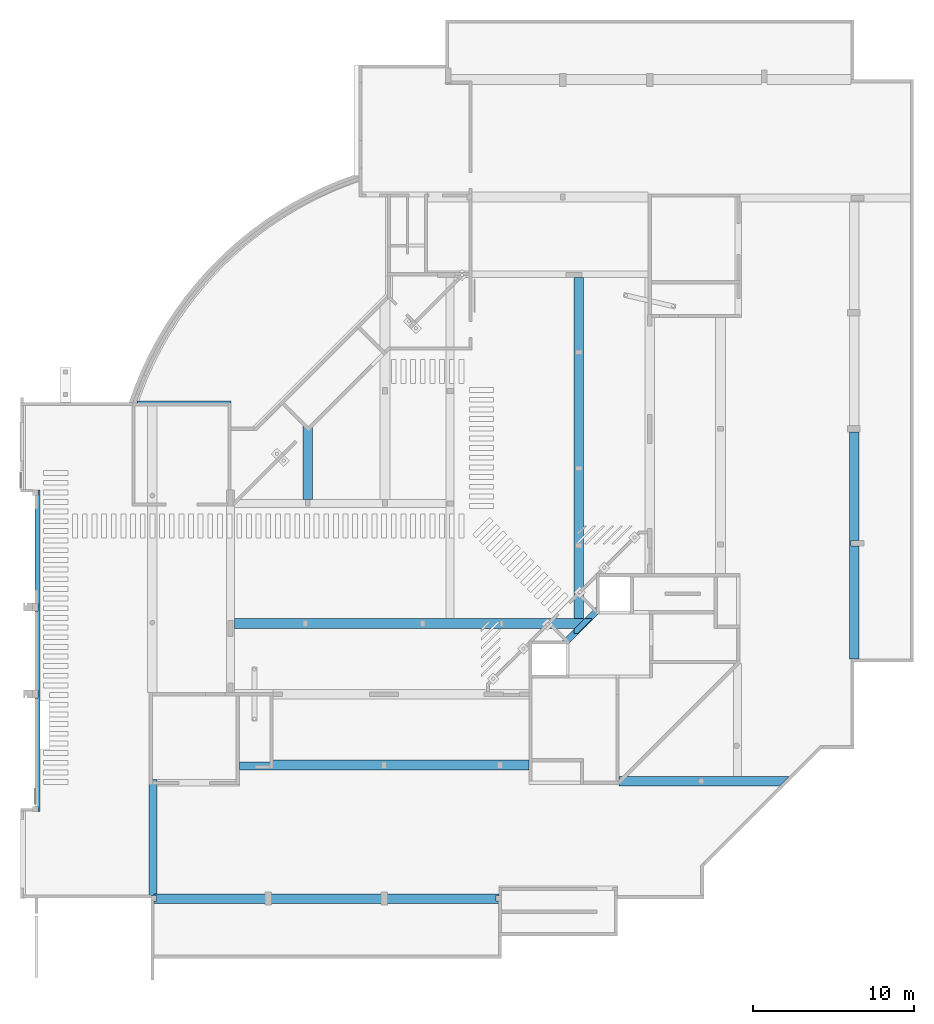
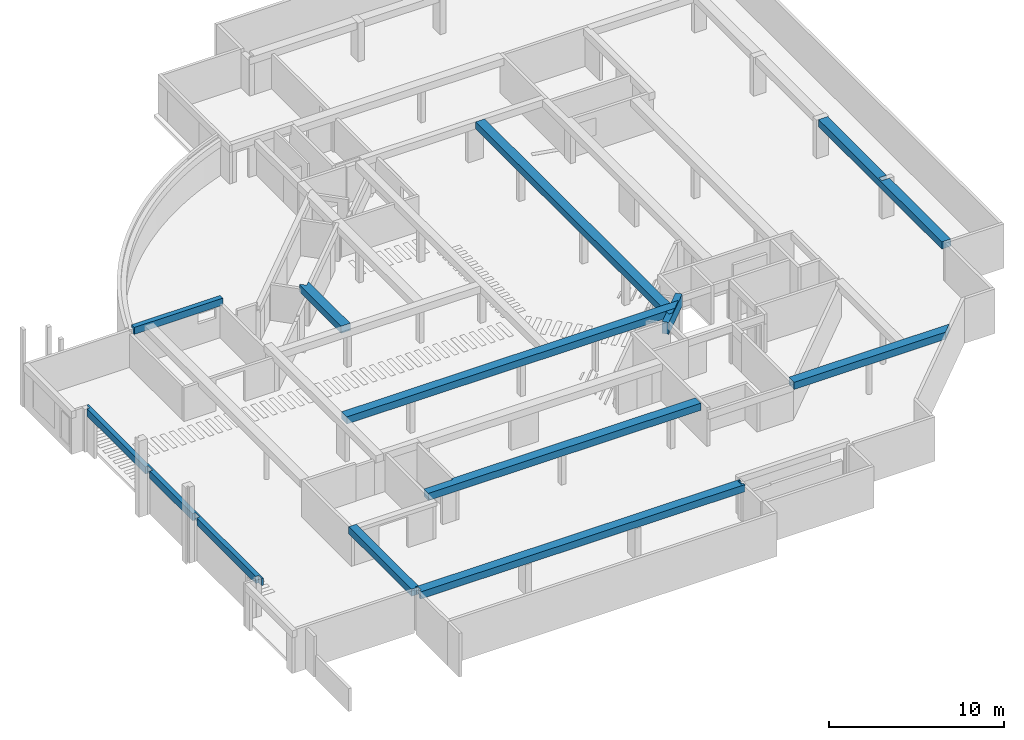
# One storey, part 6 of 12: 11 beams.
"""IFC4X3_ADD2 building model written with IfcOpenShell, lengths in millimetres."""

import ifcopenshell
import ifcopenshell.guid

model = None  # the IFC model being written
_history = None  # IfcOwnerHistory: only IFC2X3 demands one
_inside = {}  # id of a spatial element -> (the spatial element, [elements in it])
_under = {}  # id of a project, library or spatial element -> (it, [spatial elements below it])
_declared = {}  # id of a project -> (the project, [libraries it declares])
_typed = {}  # id of a type object -> (the type object, [elements of that type])
_made_of = {}  # id of a material, layer set ... -> (it, [elements and type objects made of it])


def new_model(schema):
    """Start an empty IFC model of exactly this schema.

    Asked for "IFC4X3", IfcOpenShell would pick the latest addendum, in which some entities
    have other attributes; the version numbers below select the first issue.
    IFC2X3 requires an IfcOwnerHistory on every rooted entity: one is made here for all.
    """
    global model, _history
    if schema == "IFC4X3":
        model = ifcopenshell.file(schema_version=(4, 3, 0, 0))
    else:
        model = ifcopenshell.file(schema=schema)
    _inside.clear()
    _under.clear()
    _declared.clear()
    _typed.clear()
    _made_of.clear()
    _history = None
    if model.schema == "IFC2X3":
        org = make("IfcOrganization", Name="unknown")
        user = make(
            "IfcPersonAndOrganization",
            ThePerson=make("IfcPerson", FamilyName="unknown"),
            TheOrganization=org,
        )
        app = make(
            "IfcApplication",
            ApplicationDeveloper=org,
            Version="unknown",
            ApplicationFullName="unknown",
            ApplicationIdentifier="unknown",
        )
        _history = make(
            "IfcOwnerHistory",
            OwningUser=user,
            OwningApplication=app,
            ChangeAction="ADDED",
            CreationDate=0,
        )
    return model


def make(cls, **values):
    """One entity of the class cls with the attributes given. An attribute that is None is left unset."""
    return model.create_entity(
        cls, **{name: value for name, value in values.items() if value is not None}
    )


def rooted(cls, **values):
    """An entity with a GlobalId (a new one), such as an element, a storey or a relation."""
    return make(cls, GlobalId=ifcopenshell.guid.new(), OwnerHistory=_history, **values)


def si_unit(unit_type, name, prefix=None):
    """IfcSIUnit, for example si_unit("LENGTHUNIT", "METRE", prefix="MILLI")."""
    return make("IfcSIUnit", UnitType=unit_type, Prefix=prefix, Name=name)


def assignment(units):
    """IfcUnitAssignment: the units of a project."""
    return None if units is None else make("IfcUnitAssignment", Units=units)


def point(xyz):
    """IfcCartesianPoint."""
    return None if xyz is None else make("IfcCartesianPoint", Coordinates=xyz)


def direction(xyz):
    """IfcDirection."""
    return None if xyz is None else make("IfcDirection", DirectionRatios=xyz)


def frame(location, z_axis=None, x_axis=None):
    """IfcAxis2Placement3D, a coordinate frame: its origin and axes. An axis left out is left unset."""
    return make(
        "IfcAxis2Placement3D",
        Location=point(location),
        Axis=direction(z_axis),
        RefDirection=direction(x_axis),
    )


def origin_with_axes():
    """The frame at (0, 0, 0) with the z axis (0, 0, 1) and the x axis (1, 0, 0) written out."""
    return frame((0.0, 0.0, 0.0), z_axis=(0.0, 0.0, 1.0), x_axis=(1.0, 0.0, 0.0))


def place(relative_to, where):
    """IfcLocalPlacement: puts the frame where relative to a parent placement (None: the world)."""
    return make(
        "IfcLocalPlacement", PlacementRelTo=relative_to, RelativePlacement=where
    )


def context(
    kind, dimensions, precision=None, world=None, true_north=None, identifier=None
):
    """IfcGeometricRepresentationContext, for example the 3D "Model" context."""
    return make(
        "IfcGeometricRepresentationContext",
        ContextIdentifier=identifier,
        ContextType=kind,
        CoordinateSpaceDimension=dimensions,
        Precision=precision,
        WorldCoordinateSystem=world,
        TrueNorth=true_north,
    )


def subcontext(parent, identifier, kind, view, scale=None):
    """IfcGeometricRepresentationSubContext, for example "Body" below "Model"."""
    return make(
        "IfcGeometricRepresentationSubContext",
        ContextIdentifier=identifier,
        ContextType=kind,
        ParentContext=parent,
        TargetScale=scale,
        TargetView=view,
    )


def project(units=None, contexts=None):
    """IfcProject with its units and contexts."""
    return rooted(
        "IfcProject",
        Name="project",
        RepresentationContexts=contexts,
        UnitsInContext=assignment(units),
    )


def spatial(cls, under=None, at=None, **own):
    """A site, building, storey or space (cls), placed at a placement, below another one or the project."""
    s = rooted(cls, ObjectPlacement=at, **own)
    if under is not None:
        _under.setdefault(under.id(), (under, []))[1].append(s)
    return s


def point_list(points):
    """IfcCartesianPointList2D or 3D."""
    cls = (
        "IfcCartesianPointList2D" if len(points[0]) == 2 else "IfcCartesianPointList3D"
    )
    return make(cls, CoordList=points)


def polygons(points, faces, closed=None, point_numbers=None):
    """IfcPolygonalFaceSet: a face is its outer loop, then its inner loops; points numbered from 1."""
    made = []
    for loops in faces:
        if len(loops) == 1:
            made.append(make("IfcIndexedPolygonalFace", CoordIndex=loops[0]))
        else:
            made.append(
                make(
                    "IfcIndexedPolygonalFaceWithVoids",
                    CoordIndex=loops[0],
                    InnerCoordIndices=loops[1:],
                )
            )
    return make(
        "IfcPolygonalFaceSet",
        Coordinates=point_list(points),
        Closed=closed,
        Faces=made,
        PnIndex=point_numbers,
    )


def shape(context_of_items, identifier, shape_type, items):
    """IfcShapeRepresentation: the items that make up one representation, for example the "Body"."""
    return make(
        "IfcShapeRepresentation",
        ContextOfItems=context_of_items,
        RepresentationIdentifier=identifier,
        RepresentationType=shape_type,
        Items=items,
    )


def source(mapping_origin, context_of_items, identifier, shape_type, items):
    """IfcRepresentationMap: a shape defined once, which mapped items show again and again."""
    return make(
        "IfcRepresentationMap",
        MappingOrigin=mapping_origin,
        MappedRepresentation=shape(context_of_items, identifier, shape_type, items),
    )


def transform(
    local_origin,
    x_axis=None,
    y_axis=None,
    z_axis=None,
    scale=None,
    scale2=None,
    scale3=None,
    uniform=True,
):
    """IfcCartesianTransformationOperator3D, or its non-uniform kind. x_axis, y_axis, z_axis: its Axis1, 2, 3."""
    if uniform:
        return make(
            "IfcCartesianTransformationOperator3D",
            Axis1=direction(x_axis),
            Axis2=direction(y_axis),
            LocalOrigin=point(local_origin),
            Scale=scale,
            Axis3=direction(z_axis),
        )
    return make(
        "IfcCartesianTransformationOperator3DnonUniform",
        Axis1=direction(x_axis),
        Axis2=direction(y_axis),
        LocalOrigin=point(local_origin),
        Scale=scale,
        Axis3=direction(z_axis),
        Scale2=scale2,
        Scale3=scale3,
    )


def mapped(mapping_source, mapping_target):
    """IfcMappedItem: shows the shape of a source again, moved by a transform."""
    return make(
        "IfcMappedItem", MappingSource=mapping_source, MappingTarget=mapping_target
    )


def material(Name=None, Category=None):
    """IfcMaterial."""
    return make("IfcMaterial", Name=Name, Category=Category)


def made_of(thing, what):
    """Note that an element or type object is made of a material, layer set ...; save() writes the relation."""
    if what is not None:
        _made_of.setdefault(what.id(), (what, []))[1].append(thing)
    return thing


def type_object(cls, material=None, **own):
    """A type object (cls), such as IfcWallType, which elements share."""
    return made_of(rooted(cls, **own), material)


def type_shapes(of_type, sources):
    """Give a type object the sources (RepresentationMaps) that its elements show as mapped items."""
    of_type.RepresentationMaps = sources


def element(
    cls,
    number,
    at=None,
    inside=None,
    cuts=None,
    type_object=None,
    material=None,
    context=None,
    identifier="Body",
    shape_type=None,
    held_by="IfcProductDefinitionShape",
    body=None,
    shapes=None,
    **own,
):
    """One element of the class cls, such as IfcWall. Its Tag is "e" and its number.

    at: its placement. inside: the storey or other place that contains it. cuts: it is an
    opening in that element (IfcRelVoidsElement). A single representation is given by context,
    identifier, shape_type and body (its items); several are given by shapes. held_by: the class
    of the entity that holds the representations. save() writes the other relations.
    """
    e = rooted(cls, Tag="e%d" % number, ObjectPlacement=at, **own)
    if body is not None:
        shapes = [shape(context, identifier, shape_type, body)]
    if shapes is not None:
        e.Representation = make(held_by, Representations=shapes)
    if inside is not None:
        _inside.setdefault(inside.id(), (inside, []))[1].append(e)
    if cuts is not None:
        rooted(
            "IfcRelVoidsElement", RelatingBuildingElement=cuts, RelatedOpeningElement=e
        )
    if type_object is not None:
        _typed.setdefault(type_object.id(), (type_object, []))[1].append(e)
    return made_of(e, material)


def aggregate(whole, parts):
    """IfcRelAggregates: a whole, such as a stair, and the parts it consists of."""
    return rooted("IfcRelAggregates", RelatingObject=whole, RelatedObjects=parts)


def save(model, path):
    """Write the relations noted so far, then the file.

    IfcRelAggregates (storeys below a building ...), IfcRelContainedInSpatialStructure (elements
    in a storey), IfcRelDefinesByType, IfcRelAssociatesMaterial and IfcRelDeclares: one each for
    every whole, place, type object, material and project.
    """
    for whole, parts in _under.values():
        aggregate(whole, parts)
    for where, things in _inside.values():
        rooted(
            "IfcRelContainedInSpatialStructure",
            RelatedElements=things,
            RelatingStructure=where,
        )
    for kind, things in _typed.values():
        rooted("IfcRelDefinesByType", RelatedObjects=things, RelatingType=kind)
    for what, things in _made_of.values():
        rooted("IfcRelAssociatesMaterial", RelatedObjects=things, RelatingMaterial=what)
    for by, libraries in _declared.values():
        rooted("IfcRelDeclares", RelatingContext=by, RelatedDefinitions=libraries)
    model.write(path)


model = new_model("IFC4X3_ADD2")

# Units and contexts
model_context = context("Model", 3, precision=1e-05, world=origin_with_axes(), true_north=direction((0.0, 1.0)))
body_context = subcontext(model_context, "Body", "Model", "MODEL_VIEW")
ifc_project = project(units=[si_unit("LENGTHUNIT", "METRE", prefix="MILLI"), si_unit("AREAUNIT", "SQUARE_METRE"), si_unit("VOLUMEUNIT", "CUBIC_METRE"), si_unit("PLANEANGLEUNIT", "RADIAN"), si_unit("TIMEUNIT", "SECOND"), si_unit("MASSUNIT", "GRAM")], contexts=[model_context])

# Site, building, storey
site_placement = place(None, origin_with_axes())
site = spatial("IfcSite", under=ifc_project, at=site_placement, Name="Site", CompositionType="ELEMENT")
building_placement = place(site_placement, origin_with_axes())
building = spatial("IfcBuilding", under=site, at=building_placement, Name="IFC Building Story")
storey_placement = place(building_placement, frame((0.0, 0.0, -5940.0), z_axis=(0.0, 0.0, 1.0), x_axis=(1.0, 0.0, 0.0)))
storey = spatial("IfcBuildingStorey", under=building, at=storey_placement, Name="K20", Elevation=-5940.0)

# Beams
ifc_material = material(Name="BB_Beton_Bestaand")
beam_type_1 = type_object("IfcBeamType", Name="BB_XX_Betonbalk_ rechthoekig_ center-center_SFB_500 x 500 mm", PredefinedType="NOTDEFINED")
shared_shape_1 = source(origin_with_axes(), body_context, "Body", "Tessellation", [
    polygons([(500.000000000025, 7205.00000000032, 499.999999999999), (500.000000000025, 7205.00000000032, 0.0), (200.000000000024, 7205.00000000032, 0.0), (2.59888111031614e-11, 7205.00000000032, 0.0), (2.59888111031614e-11, 7205.00000000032, 499.999999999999), (200.000000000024, 7205.00000000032, 500.0), (1.73258740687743e-11, 0.0, 499.999999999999), (2.59888111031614e-11, 0.0, 0.0), (104.999999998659, 0.0, 0.0), (304.999999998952, 0.0, 0.0), (304.999999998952, 0.0, 499.999999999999), (104.999999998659, 0.0, 500.0), (500.000000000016, 99.9999999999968, 499.999999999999), (500.000000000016, 99.9999999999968, 0.0), (500.000000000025, 6905.00000000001, 0.0), (500.000000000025, 7095.00000000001, 0.0), (304.999999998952, 99.9999999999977, 0.0), (1.73258740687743e-11, 34.9999999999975, 0.0), (2.59888111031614e-11, 6905.0, 0.0), (8.66293703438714e-12, 34.9999999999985, 500.0), (304.999999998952, 99.9999999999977, 499.999999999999)], [[[3, 4, 5]], [[3, 5, 6]], [[6, 1, 2]], [[6, 2, 3]], [[9, 10, 11]], [[9, 11, 12]], [[12, 7, 8]], [[12, 8, 9]], [[16, 2, 1]], [[1, 15, 16]], [[1, 13, 14]], [[1, 14, 15]], [[17, 10, 9]], [[17, 9, 3]], [[17, 3, 15]], [[15, 14, 17]], [[3, 16, 15]], [[3, 2, 16]], [[19, 4, 3]], [[3, 9, 18]], [[3, 18, 19]], [[9, 8, 18]], [[18, 8, 7]], [[18, 7, 20]], [[20, 5, 19]], [[20, 19, 18]], [[5, 4, 19]], [[20, 7, 12]], [[12, 6, 5]], [[12, 5, 20]], [[21, 13, 1]], [[1, 6, 12]], [[1, 12, 21]], [[12, 11, 21]], [[17, 21, 11, 10]], [[21, 17, 14, 13]]]),
])
type_shapes(beam_type_1, [shared_shape_1])
beam_1_placement = place(storey_placement, frame((-43700.0, 95.0, 2100.0), z_axis=(0.0, 0.0, 1.0), x_axis=(1.0, 0.0, 0.0)))
element("IfcBeam", 1, at=beam_1_placement, inside=storey, type_object=beam_type_1, material=ifc_material, Name="BB_XX_Betonbalk, rechthoekig, center-center_SFB:500 x 500 mm", ObjectType="BB_XX_Betonbalk, rechthoekig, center-center_SFB:500 x 500 mm", PredefinedType="BEAM", context=body_context, shape_type="MappedRepresentation", body=[
    mapped(shared_shape_1, transform((0.0, 0.0, 0.0))),
])
beam_type_2 = type_object("IfcBeamType", Name="BB_XX_Betonbalk_ rechthoekig_ center-center_SFB_620 x 500 mm", PredefinedType="NOTDEFINED")
shared_shape_2 = source(origin_with_axes(), body_context, "Body", "Tessellation", [
    polygons([(17999.9999999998, 1.08286712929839e-12, 499.999999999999), (17999.9999999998, 2.16573425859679e-12, 290.0), (17999.9999999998, 1.08286712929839e-12, 0.0), (17999.9999999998, 620.000000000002, 0.0), (17999.9999999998, 620.000000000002, 290.0), (17999.9999999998, 620.000000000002, 499.999999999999), (0.0, 1.08286712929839e-12, 0.0), (0.0, 1.08286712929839e-12, 499.999999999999), (0.0, 509.999999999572, 499.999999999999), (0.0, 509.999999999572, 0.0), (17825.0000000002, 1.08286712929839e-12, 0.0), (1894.99999999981, 509.999999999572, 0.0), (1894.99999999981, 619.999999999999, 0.0), (1899.99999999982, 620.0, 0.0), (2099.99999999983, 620.0, 0.0), (17825.0000000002, 620.000000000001, 0.0), (1894.99999999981, 619.999999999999, 499.999999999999), (1899.99999999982, 620.0, 500.0), (2099.99999999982, 620.0, 500.0), (1894.99999999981, 509.999999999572, 499.999999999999)], [[[2, 3, 4]], [[2, 4, 5]], [[5, 6, 1]], [[5, 1, 2]], [[7, 8, 9, 10]], [[2, 1, 8]], [[11, 3, 2]], [[2, 8, 7]], [[2, 7, 11]], [[14, 15, 12]], [[12, 13, 14]], [[12, 15, 16]], [[16, 11, 7]], [[16, 7, 12]], [[7, 10, 12]], [[16, 4, 3]], [[16, 3, 11]], [[14, 13, 17]], [[17, 15, 14]], [[17, 5, 16]], [[17, 16, 15]], [[5, 4, 16]], [[19, 6, 5]], [[5, 18, 19]], [[5, 17, 18]], [[19, 18, 17]], [[20, 9, 8]], [[20, 8, 1]], [[1, 19, 20]], [[19, 17, 20]], [[1, 6, 19]], [[12, 20, 17, 13]], [[20, 12, 10, 9]]]),
])
type_shapes(beam_type_2, [shared_shape_2])
beam_2_placement = place(storey_placement, frame((-38100.0, 7890.0, 2100.0), z_axis=(0.0, 0.0, 1.0), x_axis=(1.0, 0.0, 0.0)))
element("IfcBeam", 2, at=beam_2_placement, inside=storey, type_object=beam_type_2, material=ifc_material, Name="BB_XX_Betonbalk, rechthoekig, center-center_SFB:620 x 500 mm", ObjectType="BB_XX_Betonbalk, rechthoekig, center-center_SFB:620 x 500 mm", PredefinedType="BEAM", context=body_context, shape_type="MappedRepresentation", body=[
    mapped(shared_shape_2, transform((0.0, 0.0, 0.0))),
])
beam_type_3 = type_object("IfcBeamType", Name="BB_XX_Betonbalk_ rechthoekig_ center-center_SFB_600 x 500 mm1", PredefinedType="NOTDEFINED")
shared_shape_3 = source(origin_with_axes(), body_context, "Body", "Tessellation", [
    polygons([(21420.0000000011, 0.0, 499.999999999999), (21420.0000000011, 0.0, 399.999999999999), (21420.0000000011, 0.0, 0.0), (21420.0000000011, 160.000000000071, 0.0), (21420.0000000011, 600.0, 0.0), (21420.0000000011, 600.0, 499.999999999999), (21420.0000000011, 499.99999999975, 499.999999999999), (21420.0000000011, 499.99999999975, 400.0), (21420.0000000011, 159.999999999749, 400.0), (21420.0000000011, 159.999999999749, 499.999999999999), (0.0, 6.9235817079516e-11, 0.0), (0.0, 6.9235817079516e-11, 499.999999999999), (0.0, 160.000000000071, 499.999999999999), (0.0, 160.000000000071, 0.0), (21400.0000000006, 0.0, 0.0), (139.9999999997, 160.000000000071, 0.0), (139.9999999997, 500.000000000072, 0.0), (0.0, 500.000000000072, 0.0), (0.0, 600.000000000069, 0.0), (195.000000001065, 600.000000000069, 0.0), (0.0, 600.000000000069, 499.999999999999), (195.000000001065, 600.000000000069, 500.0), (21250.0000000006, 159.999999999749, 499.999999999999), (21250.0000000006, 499.99999999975, 499.999999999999), (0.0, 500.000000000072, 499.999999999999), (139.9999999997, 500.000000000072, 500.000000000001), (139.9999999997, 160.000000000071, 500.000000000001), (21250.0000000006, 499.99999999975, 400.0), (21250.0000000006, 159.999999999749, 400.0)], [[[8, 9, 4]], [[8, 4, 5]], [[5, 6, 8]], [[6, 7, 8]], [[9, 2, 3]], [[9, 3, 4]], [[9, 10, 1]], [[9, 1, 2]], [[11, 12, 13, 14]], [[2, 1, 12]], [[15, 3, 2]], [[2, 12, 11]], [[2, 11, 15]], [[16, 4, 15]], [[16, 15, 11]], [[11, 14, 16]], [[4, 3, 15]], [[17, 18, 19]], [[17, 19, 20]], [[20, 5, 4]], [[20, 4, 16]], [[20, 16, 17]], [[20, 19, 21]], [[20, 21, 22]], [[22, 6, 5]], [[22, 5, 20]], [[24, 7, 6]], [[22, 21, 25]], [[22, 25, 26]], [[27, 13, 12]], [[24, 6, 22]], [[27, 12, 23]], [[23, 24, 22]], [[23, 22, 26]], [[23, 26, 27]], [[12, 1, 23]], [[1, 10, 23]], [[28, 29, 9, 8]], [[28, 8, 7, 24]], [[29, 28, 24, 23]], [[9, 29, 23, 10]], [[17, 26, 25, 18]], [[27, 16, 14, 13]], [[26, 17, 16, 27]], [[21, 19, 18, 25]]]),
])
type_shapes(beam_type_3, [shared_shape_3])
beam_3_placement = place(storey_placement, frame((-43395.0, -405.0, 2100.0), z_axis=(0.0, 0.0, 1.0), x_axis=(1.0, 0.0, 0.0)))
element("IfcBeam", 3, at=beam_3_placement, inside=storey, type_object=beam_type_3, material=ifc_material, Name="BB_XX_Betonbalk, rechthoekig, center-center_SFB:600 x 500 mm", ObjectType="BB_XX_Betonbalk, rechthoekig, center-center_SFB:600 x 500 mm", PredefinedType="BEAM", context=body_context, shape_type="MappedRepresentation", body=[
    mapped(shared_shape_3, transform((0.0, 0.0, 0.0))),
])
beam_type_4 = type_object("IfcBeamType", Name="BB_XX_Betonbalk_ rechthoekig_ center-center_SFB_600 x 500 mm3", PredefinedType="NOTDEFINED")
shared_shape_4 = source(origin_with_axes(), body_context, "Body", "Tessellation", [
    polygons([(0.0, 3.24860138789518e-11, 500.0), (2.16573425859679e-12, 600.000000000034, 500.0), (2.16573425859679e-12, 600.000000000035, 240.0), (2.16573425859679e-12, 600.000000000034, 0.0), (2.16573425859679e-12, 382.842712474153, 0.0), (0.0, 99.9999999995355, 0.0), (0.0, 3.24860138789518e-11, 0.0), (0.0, 3.35688810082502e-11, 250.0), (147.487373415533, 3.24860138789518e-11, 0.0), (9988.61655703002, 1.08286712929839e-12, 0.0), (9988.61655703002, 1.08286712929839e-12, 500.0), (174.999999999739, 600.000000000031, 0.0), (217.157287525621, 600.000000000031, 0.0), (500.000000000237, 600.00000000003, 0.0), (747.487373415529, 600.00000000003, 0.0), (7099.99999999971, 600.000000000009, 0.0), (7599.99999999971, 600.000000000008, 0.0), (10588.61655703, 599.999999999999, 0.0), (7099.99999999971, 600.000000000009, 500.0), (7599.99999999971, 600.000000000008, 500.0), (10588.61655703, 599.999999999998, 500.0)], [[[6, 7, 8]], [[8, 3, 5]], [[8, 5, 6]], [[3, 4, 5]], [[8, 1, 2]], [[8, 2, 3]], [[9, 10, 11]], [[9, 11, 8]], [[8, 7, 9]], [[11, 1, 8]], [[17, 18, 10]], [[10, 16, 17]], [[10, 5, 15]], [[10, 15, 16]], [[5, 14, 15]], [[5, 13, 14]], [[5, 12, 13]], [[5, 4, 12]], [[10, 6, 5]], [[9, 7, 6]], [[6, 10, 9]], [[20, 21, 18]], [[18, 19, 20]], [[18, 3, 2]], [[18, 2, 19]], [[12, 4, 3]], [[3, 13, 12]], [[3, 14, 13]], [[3, 15, 14]], [[3, 16, 15]], [[3, 17, 16]], [[3, 18, 17]], [[19, 2, 1]], [[19, 1, 11]], [[11, 20, 19]], [[11, 21, 20]], [[11, 10, 18, 21]]]),
])
type_shapes(beam_type_4, [shared_shape_4])
beam_4_placement = place(storey_placement, frame((-14500.0, 6900.0, 2200.0), z_axis=(0.0, 0.0, 1.0), x_axis=(1.0, 0.0, 0.0)))
element("IfcBeam", 4, at=beam_4_placement, inside=storey, type_object=beam_type_4, material=ifc_material, Name="BB_XX_Betonbalk, rechthoekig, center-center_SFB:600 x 500 mm", ObjectType="BB_XX_Betonbalk, rechthoekig, center-center_SFB:600 x 500 mm", PredefinedType="BEAM", context=body_context, shape_type="MappedRepresentation", body=[
    mapped(shared_shape_4, transform((0.0, 0.0, 0.0))),
])
beam_type_5 = type_object("IfcBeamType", Name="BB_XX_Betonbalk_ rechthoekig_ center-center_SFB_400 x 830 mm", PredefinedType="NOTDEFINED")
shared_shape_5 = source(origin_with_axes(), body_context, "Body", "Tessellation", [
    polygons([(2367.30550064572, 2084.46278816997, 830.0), (2367.30550064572, 2084.46278816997, 0.0), (2296.59482252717, 2155.17346628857, 0.0), (2096.59482252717, 2355.17346628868, 0.0), (2084.46278817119, 2367.30550064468, 0.0), (2084.46278817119, 2367.30550064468, 830.0), (2096.59482252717, 2355.17346628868, 830.0), (2296.59482252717, 2155.17346628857, 830.0), (282.842712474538, -2.16573425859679e-12, 830.0), (212.669246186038, 70.1734662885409, 830.0), (12.669246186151, 270.173466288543, 830.0), (2.16573425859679e-12, 282.842712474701, 830.0), (2.16573425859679e-12, 282.842712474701, 0.0), (12.6692461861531, 270.173466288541, 0.0), (212.669246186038, 70.1734662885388, 0.0), (282.842712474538, -2.16573425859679e-12, 0.0), (2296.59482252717, 2013.75211005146, 830.0), (2238.01617876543, 1955.17346628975, 830.0), (416.594822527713, 133.752110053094, 830.0), (353.016178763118, 70.1734662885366, 830.0), (353.01617876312, 70.1734662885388, 0.0), (416.594822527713, 133.752110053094, 0.0), (2238.01617876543, 1955.17346628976, 0.0), (2296.59482252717, 2013.75211005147, 0.0), (59.2868357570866, 342.12954823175, 0.0), (193.637124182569, 476.479836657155, 0.0), (1890.28845216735, 2173.13116464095, 0.0), (2024.63874059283, 2307.48145306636, 0.0), (711.594822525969, 994.437535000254, 830.0), (711.594822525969, 994.437535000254, 329.999999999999), (1372.33075381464, 1655.17346628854, 329.999999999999), (1372.33075381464, 1655.17346628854, 830.0), (1816.59482252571, 1655.17346628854, 830.0), (1816.59482252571, 1593.75211005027, 830.0), (1278.01617876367, 1055.17346628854, 830.0), (951.594822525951, 728.752110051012, 830.0), (711.594822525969, 728.752110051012, 830.0), (711.594822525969, 728.752110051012, 329.999999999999), (951.594822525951, 728.752110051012, 329.999999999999), (1278.01617876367, 1055.17346628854, 330.0), (1816.59482252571, 1593.75211005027, 329.999999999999), (1816.59482252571, 1655.17346628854, 329.999999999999)], [[[4, 5, 6]], [[4, 6, 7]], [[7, 8, 3]], [[7, 3, 4]], [[8, 1, 2]], [[8, 2, 3]], [[11, 12, 13]], [[11, 13, 14]], [[14, 15, 10]], [[14, 10, 11]], [[15, 16, 9]], [[15, 9, 10]], [[20, 9, 16]], [[20, 16, 21]], [[21, 22, 19]], [[21, 19, 20]], [[22, 23, 18]], [[22, 18, 19]], [[23, 24, 17]], [[23, 17, 18]], [[24, 2, 1]], [[24, 1, 17]], [[21, 16, 15]], [[15, 22, 21]], [[15, 3, 23]], [[15, 23, 22]], [[3, 24, 23]], [[3, 2, 24]], [[15, 14, 4]], [[15, 4, 3]], [[28, 5, 4]], [[4, 27, 28]], [[4, 26, 27]], [[4, 14, 26]], [[14, 25, 26]], [[14, 13, 25]], [[25, 13, 12]], [[12, 26, 25]], [[31, 32, 6]], [[31, 6, 27]], [[27, 26, 30]], [[27, 30, 31]], [[26, 12, 29]], [[26, 29, 30]], [[6, 28, 27]], [[6, 5, 28]], [[7, 6, 32]], [[7, 32, 33]], [[33, 8, 7]], [[11, 10, 37]], [[37, 29, 12]], [[37, 12, 11]], [[19, 36, 37]], [[19, 37, 10]], [[10, 20, 19]], [[10, 9, 20]], [[19, 35, 36]], [[19, 34, 35]], [[19, 18, 34]], [[18, 17, 34]], [[17, 1, 8]], [[8, 33, 34]], [[8, 34, 17]], [[38, 37, 36, 39]], [[37, 38, 30, 29]], [[40, 41, 42]], [[40, 42, 31]], [[40, 31, 30]], [[30, 38, 39]], [[30, 39, 40]], [[40, 39, 36]], [[40, 36, 35]], [[35, 34, 41]], [[35, 41, 40]], [[33, 42, 41, 34]], [[42, 33, 32, 31]]]),
])
type_shapes(beam_type_5, [shared_shape_5])
beam_5_placement = place(storey_placement, frame((-18011.594822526, 15644.826533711, 1870.0), z_axis=(0.0, 0.0, 1.0), x_axis=(1.0, 0.0, 0.0)))
element("IfcBeam", 5, at=beam_5_placement, inside=storey, type_object=beam_type_5, material=ifc_material, Name="BB_XX_Betonbalk, rechthoekig, center-center_SFB:400 x 830 mm", ObjectType="BB_XX_Betonbalk, rechthoekig, center-center_SFB:400 x 830 mm", PredefinedType="BEAM", context=body_context, shape_type="MappedRepresentation", body=[
    mapped(shared_shape_5, transform((0.0, 0.0, 0.0))),
])
beam_type_6 = type_object("IfcBeamType", Name="BB_XX_Betonbalk_ rechthoekig_ center-center_SFB_600 x 500 mm7", PredefinedType="NOTDEFINED")
shared_shape_6 = source(origin_with_axes(), body_context, "Body", "Tessellation", [
    polygons([(22205.000000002, 599.999999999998, 0.0), (22205.000000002, 599.999999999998, 500.0), (22205.000000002, 538.578643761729, 500.0), (22205.000000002, 538.578643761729, 0.0), (0.0, 7.58006990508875e-11, 500.0), (0.0, 600.000000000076, 500.0), (0.0, 600.000000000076, 0.0), (0.0, 7.58006990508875e-11, 0.0), (19095.3516625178, 8.66293703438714e-12, 0.0), (19364.0522393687, 8.66293703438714e-12, 0.0), (19734.6480951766, 6.49720277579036e-12, 0.0), (20003.3486720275, 6.49720277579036e-12, 0.0), (21100.0000000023, 2.16573425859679e-12, 0.0), (21666.42135624, 2.16573425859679e-12, 0.0), (21666.42135624, 2.16573425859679e-12, 500.0), (21100.0000000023, 2.16573425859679e-12, 500.0), (19462.0252768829, 600.000000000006, 0.0), (19688.2498782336, 600.000000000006, 0.0), (19695.3516625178, 600.000000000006, 0.0), (19964.0522393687, 600.000000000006, 0.0), (21100.0000000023, 600.000000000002, 0.0), (21700.0000000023, 600.0, 0.0), (21760.735931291, 600.0, 0.0), (21100.0000000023, 600.000000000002, 500.0), (21700.0000000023, 600.0, 500.0), (21760.735931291, 600.0, 500.0)], [[[1, 2, 3, 4]], [[5, 6, 7, 8]], [[13, 14, 15]], [[13, 15, 16]], [[16, 12, 13]], [[16, 11, 12]], [[16, 10, 11]], [[16, 9, 10]], [[16, 5, 8]], [[16, 8, 9]], [[23, 1, 4]], [[4, 22, 23]], [[4, 14, 13]], [[4, 13, 21]], [[4, 21, 22]], [[13, 12, 20]], [[13, 20, 21]], [[12, 11, 19]], [[12, 19, 20]], [[11, 18, 19]], [[11, 10, 17]], [[11, 17, 18]], [[9, 8, 7]], [[9, 7, 17]], [[17, 10, 9]], [[17, 7, 6]], [[17, 6, 24]], [[24, 18, 17]], [[24, 19, 18]], [[24, 20, 19]], [[24, 21, 20]], [[24, 25, 22]], [[24, 22, 21]], [[25, 26, 23]], [[25, 23, 22]], [[26, 2, 1]], [[26, 1, 23]], [[25, 24, 16]], [[25, 16, 15]], [[25, 15, 3]], [[3, 26, 25]], [[3, 2, 26]], [[24, 6, 5]], [[24, 5, 16]], [[4, 3, 15, 14]]]),
])
type_shapes(beam_type_6, [shared_shape_6])
beam_6_placement = place(storey_placement, frame((-38400.0, 16700.0, 2200.0), z_axis=(0.0, 0.0, 1.0), x_axis=(1.0, 0.0, 0.0)))
element("IfcBeam", 6, at=beam_6_placement, inside=storey, type_object=beam_type_6, material=ifc_material, Name="BB_XX_Betonbalk, rechthoekig, center-center_SFB:600 x 500 mm", ObjectType="BB_XX_Betonbalk, rechthoekig, center-center_SFB:600 x 500 mm", PredefinedType="BEAM", context=body_context, shape_type="MappedRepresentation", body=[
    mapped(shared_shape_6, transform((0.0, 0.0, 0.0))),
])
beam_type_7 = type_object("IfcBeamType", Name="BB_XX_Betonbalk_ rechthoekig_ center-center_SFB_600 x 500 mm11", PredefinedType="NOTDEFINED")
shared_shape_7 = source(origin_with_axes(), body_context, "Body", "Tessellation", [
    polygons([(0.0, 4.33146851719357e-12, 500.0), (0.0, 4.33146851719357e-12, 0.0), (600.000000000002, 4.33146851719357e-12, 0.0), (600.000000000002, 4.33146851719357e-12, 500.0), (8.66293703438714e-12, 4789.99999999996, 0.0), (8.66293703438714e-12, 4789.99999999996, 299.999999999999), (8.66293703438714e-12, 4789.99999999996, 500.0), (85.0191257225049, 4789.99999999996, 500.0), (85.0191257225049, 4789.99999999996, 299.999999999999), (85.0191257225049, 4789.99999999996, 0.0), (1.29944055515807e-11, 3910.26539469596, 500.0), (1.29944055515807e-11, 4178.96597154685, 500.0), (8.66293703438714e-12, 4592.17641324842, 0.0), (8.66293703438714e-12, 4178.96597154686, 0.0), (8.66293703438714e-12, 3910.26539469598, 0.0), (8.66293703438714e-12, 3663.18284882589, 0.0), (8.66293703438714e-12, 3662.81566461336, 0.0), (340.936687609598, 4534.08243811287, 0.0), (596.854249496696, 4789.99999999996, 0.0), (600.000000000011, 4789.99999999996, 0.0), (600.000000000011, 4510.30303802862, 0.0), (600.000000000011, 4275.01912572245, 0.0), (600.000000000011, 4789.99999999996, 500.0), (600.000000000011, 4510.30303802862, 500.0), (596.854249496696, 4789.99999999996, 500.0), (340.936687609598, 4534.08243811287, 500.0)], [[[1, 2, 3, 4]], [[6, 7, 8]], [[6, 8, 9]], [[9, 10, 5]], [[9, 5, 6]], [[13, 14, 12]], [[13, 12, 6]], [[6, 5, 13]], [[12, 7, 6]], [[14, 15, 11]], [[14, 11, 12]], [[17, 2, 1]], [[17, 1, 11]], [[11, 16, 17]], [[11, 15, 16]], [[13, 5, 10]], [[21, 22, 18]], [[18, 19, 20]], [[18, 20, 21]], [[18, 22, 14]], [[18, 14, 13]], [[13, 10, 18]], [[22, 15, 14]], [[22, 16, 15]], [[22, 17, 16]], [[22, 3, 2]], [[22, 2, 17]], [[21, 20, 23]], [[21, 23, 24]], [[24, 22, 21]], [[24, 4, 3]], [[24, 3, 22]], [[24, 23, 25]], [[24, 25, 26]], [[11, 1, 4]], [[11, 4, 26]], [[26, 12, 11]], [[26, 8, 7]], [[26, 7, 12]], [[4, 24, 26]], [[18, 26, 25, 19]], [[9, 8, 26]], [[26, 18, 10]], [[26, 10, 9]], [[23, 20, 19, 25]]]),
])
type_shapes(beam_type_7, [shared_shape_7])
beam_7_placement = place(storey_placement, frame((-34150.0, 24700.0, 2200.0), z_axis=(0.0, 0.0, 1.0), x_axis=(1.0, 0.0, 0.0)))
element("IfcBeam", 7, at=beam_7_placement, inside=storey, type_object=beam_type_7, material=ifc_material, Name="BB_XX_Betonbalk, rechthoekig, center-center_SFB:600 x 500 mm", ObjectType="BB_XX_Betonbalk, rechthoekig, center-center_SFB:600 x 500 mm", PredefinedType="BEAM", context=body_context, shape_type="MappedRepresentation", body=[
    mapped(shared_shape_7, transform((0.0, 0.0, 0.0))),
])
beam_type_8 = type_object("IfcBeamType", Name="BB_XX_Betonbalk_ rechthoekig_ center-center_SFB_320 x 490 mm", PredefinedType="NOTDEFINED")
shared_shape_8 = source(origin_with_axes(), body_context, "Body", "Tessellation", [
    polygons([(5858.89856788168, 0.0, 490.0), (5858.89856788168, 0.0, 0.0), (5858.89856788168, 320.000000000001, 0.0), (5858.89856788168, 320.000000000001, 490.0), (0.0, 1.73258740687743e-11, 0.0), (0.0, 1.73258740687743e-11, 490.0), (0.0, 320.000000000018, 490.0), (0.0, 320.000000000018, 290.000000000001), (0.0, 130.469763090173, 290.000000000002), (0.0, 130.469763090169, 0.0), (45.7608269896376, 115.136325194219, 0.0), (80.392332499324, 217.653801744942, 0.0), (115.526786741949, 320.000000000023, 0.0), (115.526786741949, 320.000000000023, 290.000000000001), (80.3931373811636, 217.656165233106, 290.000000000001), (45.7608269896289, 115.136325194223, 290.000000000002), (798.898567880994, 320.000000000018, 490.0), (873.898567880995, 320.000000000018, 490.0)], [[[1, 2, 3, 4]], [[9, 10, 5]], [[9, 5, 6]], [[6, 7, 8]], [[6, 8, 9]], [[2, 1, 6, 5]], [[12, 13, 3]], [[12, 3, 2]], [[2, 11, 12]], [[2, 5, 11]], [[5, 10, 11]], [[15, 16, 9]], [[9, 8, 14]], [[9, 14, 15]], [[14, 8, 7]], [[18, 4, 3]], [[18, 3, 13]], [[13, 17, 18]], [[14, 7, 17]], [[17, 13, 14]], [[17, 7, 6]], [[6, 18, 17]], [[6, 1, 4]], [[6, 4, 18]], [[9, 16, 11, 10]], [[16, 15, 12, 11]], [[15, 14, 13, 12]]]),
])
type_shapes(beam_type_8, [shared_shape_8])
beam_8_placement = place(storey_placement, frame((-44458.898567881, 30505.0, 2210.0), z_axis=(0.0, 0.0, 1.0), x_axis=(1.0, 0.0, 0.0)))
element("IfcBeam", 8, at=beam_8_placement, inside=storey, type_object=beam_type_8, material=ifc_material, Name="BB_XX_Betonbalk, rechthoekig, center-center_SFB:320 x 490 mm", ObjectType="BB_XX_Betonbalk, rechthoekig, center-center_SFB:320 x 490 mm", PredefinedType="BEAM", context=body_context, shape_type="MappedRepresentation", body=[
    mapped(shared_shape_8, transform((0.0, 0.0, 0.0))),
])
beam_type_9 = type_object("IfcBeamType", Name="BB_XX_Betonbalk_ rechthoekig_ center-center_SFB_600 x 500 mm17", PredefinedType="NOTDEFINED")
shared_shape_9 = source(origin_with_axes(), body_context, "Body", "Tessellation", [
    polygons([(0.0, 0.0, 500.0), (0.0, 0.0, 0.0), (239.999999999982, 0.0, 0.0), (239.999999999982, 0.0, 500.0), (0.0, 265.685424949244, 500.0), (0.0, 326.42135623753, 500.0), (0.0, 326.42135623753, 0.0), (2.16573425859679e-12, 265.685424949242, 0.0), (566.421356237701, 326.42135623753, 0.0), (566.421356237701, 326.42135623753, 500.0)], [[[1, 2, 3, 4]], [[5, 6, 7]], [[5, 7, 8]], [[8, 2, 1]], [[8, 1, 5]], [[8, 7, 9]], [[8, 9, 3]], [[3, 2, 8]], [[5, 1, 4]], [[4, 10, 6]], [[4, 6, 5]], [[4, 3, 9, 10]], [[7, 6, 10, 9]]]),
    polygons([(3.46517481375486e-11, 22126.421356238, 500.0), (600.000000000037, 22126.421356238, 500.0), (600.000000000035, 22126.421356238, 0.0), (3.46517481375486e-11, 22126.421356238, 0.0), (3.46517481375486e-11, 22126.421356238, 290.0), (600.000000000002, 926.421356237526, 500.0), (600.000000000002, 926.421356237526, 0.0), (600.000000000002, 2023.07268423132, 0.0), (600.000000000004, 2291.77326108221, 0.0), (600.000000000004, 2662.36911687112, 0.0), (600.000000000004, 2931.06969372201, 0.0), (2.16573425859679e-12, 926.421356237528, 500.0), (2.16573425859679e-12, 926.421356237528, 290.0), (2.16573425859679e-12, 926.421356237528, 0.0), (4.33146851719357e-12, 2566.83693462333, 0.0), (4.33146851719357e-12, 2338.17147800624, 0.0), (4.33146851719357e-12, 2331.06969372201, 0.0), (4.33146851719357e-12, 2062.36911687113, 0.0)], [[[5, 1, 2]], [[2, 3, 4]], [[2, 4, 5]], [[11, 3, 2]], [[11, 2, 6]], [[6, 10, 11]], [[6, 9, 10]], [[6, 8, 9]], [[6, 7, 8]], [[13, 14, 7]], [[13, 7, 6]], [[6, 12, 13]], [[18, 14, 13]], [[13, 17, 18]], [[13, 16, 17]], [[13, 15, 16]], [[13, 5, 4]], [[13, 4, 15]], [[13, 12, 1]], [[13, 1, 5]], [[8, 7, 14]], [[8, 14, 18]], [[18, 17, 9]], [[18, 9, 8]], [[16, 15, 10]], [[16, 10, 9]], [[9, 17, 16]], [[15, 11, 10]], [[15, 4, 3]], [[15, 3, 11]], [[2, 1, 12, 6]]]),
])
type_shapes(beam_type_9, [shared_shape_9])
beam_9_placement = place(storey_placement, frame((-17300.0, 16373.5786437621, 2200.0), z_axis=(0.0, 0.0, 1.0), x_axis=(1.0, 0.0, 0.0)))
element("IfcBeam", 9, at=beam_9_placement, inside=storey, type_object=beam_type_9, material=ifc_material, Name="BB_XX_Betonbalk, rechthoekig, center-center_SFB:600 x 500 mm", ObjectType="BB_XX_Betonbalk, rechthoekig, center-center_SFB:600 x 500 mm", PredefinedType="BEAM", context=body_context, shape_type="MappedRepresentation", body=[
    mapped(shared_shape_9, transform((0.0, 0.0, 0.0))),
])
beam_type_10 = type_object("IfcBeamType", Name="BB_XX_Betonbalk_ rechthoekig_ center-center_SFB_600 x 500 mm27", PredefinedType="NOTDEFINED")
shared_shape_10 = source(origin_with_axes(), body_context, "Body", "Tessellation", [
    polygons([(0.0, 2.16573425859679e-12, 500.000000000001), (0.0, 2.16573425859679e-12, 0.0), (600.0, 2.16573425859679e-12, 0.0), (600.0, 2.16573425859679e-12, 500.000000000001), (2.28078889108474e-11, 14105.0, 500.000000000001), (600.000000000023, 14105.0, 500.000000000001), (600.000000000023, 14105.0, 0.0), (2.28078889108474e-11, 14105.0, 0.0), (600.000000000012, 7350.0, 0.0), (100.000000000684, 7350.0, 0.0), (100.000000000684, 7010.0, 0.0), (600.000000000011, 7010.0, 0.0), (600.000000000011, 7010.0, 500.000000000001), (100.000000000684, 7010.0, 500.000000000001), (100.000000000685, 7350.0, 500.000000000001), (600.000000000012, 7350.0, 500.000000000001)], [[[1, 2, 3, 4]], [[5, 6, 7, 8]], [[2, 1, 5, 8]], [[11, 12, 3]], [[11, 3, 2]], [[2, 10, 11]], [[2, 8, 10]], [[8, 7, 9]], [[8, 9, 10]], [[4, 3, 12, 13]], [[15, 16, 6]], [[15, 6, 5]], [[5, 14, 15]], [[5, 1, 14]], [[1, 4, 13]], [[1, 13, 14]], [[11, 14, 13, 12]], [[14, 11, 10, 15]], [[15, 10, 9, 16]], [[7, 6, 16, 9]]]),
])
type_shapes(beam_type_10, [shared_shape_10])
beam_10_placement = place(storey_placement, frame((-195.0, 14795.0, 2200.0), z_axis=(0.0, 0.0, 1.0), x_axis=(1.0, 0.0, 0.0)))
element("IfcBeam", 10, at=beam_10_placement, inside=storey, type_object=beam_type_10, material=ifc_material, Name="BB_XX_Betonbalk, rechthoekig, center-center_SFB:600 x 500 mm", ObjectType="BB_XX_Betonbalk, rechthoekig, center-center_SFB:600 x 500 mm", PredefinedType="BEAM", context=body_context, shape_type="MappedRepresentation", body=[
    mapped(shared_shape_10, transform((0.0, 0.0, 0.0))),
])
beam_type_11 = type_object("IfcBeamType", Name="BB_XX_Betonbalk_ rechthoekig_ center-center_SFB_300 x 500 mm3", PredefinedType="NOTDEFINED")
shared_shape_11 = source(origin_with_axes(), body_context, "Body", "Tessellation", [
    polygons([(300.000000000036, 19990.0000000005, 500.000000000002), (300.000000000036, 19990.0000000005, 2.16573425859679e-12), (190.000000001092, 19990.0000000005, 2.16573425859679e-12), (190.000000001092, 19990.0000000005, 500.000000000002), (300.000000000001, 0.0, 2.16573425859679e-12), (300.000000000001, 0.0, 500.000000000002), (189.999999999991, 0.0, 500.000000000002), (189.999999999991, 0.0, 2.16573425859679e-12), (189.999999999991, 340.000000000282, 1.62430069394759e-12), (0.0, 340.000000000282, 2.16573425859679e-12), (8.66293703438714e-12, 7080.00000000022, 2.16573425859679e-12), (190.000000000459, 7080.00000000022, 1.62430069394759e-12), (190.000000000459, 7570.00000000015, 1.62430069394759e-12), (1.73258740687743e-11, 7570.00000000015, 2.16573425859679e-12), (1.73258740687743e-11, 12480.0000000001, 2.16573425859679e-12), (190.000000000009, 12480.0000000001, 1.62430069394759e-12), (190.000000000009, 12970.0000000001, 1.62430069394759e-12), (2.59888111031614e-11, 12970.0000000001, 2.16573425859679e-12), (3.46517481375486e-11, 19649.9999999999, 2.16573425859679e-12), (190.000000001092, 19649.9999999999, 2.16573425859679e-12), (2.59888111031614e-11, 12970.0000000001, 500.000000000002), (3.46517481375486e-11, 19649.9999999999, 500.000000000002), (190.000000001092, 19649.9999999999, 500.000000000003), (190.000000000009, 12970.0000000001, 500.000000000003), (190.000000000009, 12480.0000000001, 500.000000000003), (2.59888111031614e-11, 12480.0000000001, 500.000000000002), (1.73258740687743e-11, 7570.00000000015, 500.000000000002), (190.000000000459, 7570.00000000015, 500.000000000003), (190.000000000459, 7080.00000000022, 500.000000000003), (8.66293703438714e-12, 7080.00000000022, 500.000000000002), (0.0, 340.000000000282, 500.000000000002), (189.999999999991, 340.000000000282, 500.000000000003)], [[[1, 2, 3, 4]], [[5, 6, 7, 8]], [[2, 1, 6, 5]], [[20, 3, 2]], [[20, 2, 17]], [[17, 18, 19]], [[17, 19, 20]], [[2, 16, 17]], [[2, 13, 16]], [[13, 14, 15]], [[13, 15, 16]], [[2, 12, 13]], [[2, 9, 12]], [[9, 10, 11]], [[9, 11, 12]], [[2, 5, 9]], [[5, 8, 9]], [[18, 21, 22, 19]], [[32, 7, 6]], [[32, 6, 29]], [[29, 30, 31]], [[29, 31, 32]], [[6, 28, 29]], [[6, 25, 28]], [[25, 26, 27]], [[25, 27, 28]], [[6, 24, 25]], [[6, 23, 24]], [[23, 22, 21]], [[23, 21, 24]], [[6, 1, 23]], [[1, 4, 23]], [[32, 9, 8, 7]], [[9, 32, 31, 10]], [[28, 13, 12, 29]], [[29, 12, 11, 30]], [[13, 28, 27, 14]], [[24, 17, 16, 25]], [[25, 16, 15, 26]], [[17, 24, 21, 18]], [[14, 27, 26, 15]], [[10, 31, 30, 11]], [[23, 20, 19, 22]], [[20, 23, 4, 3]]]),
])
type_shapes(beam_type_11, [shared_shape_11])
beam_11_placement = place(storey_placement, frame((-50795.0, 5305.0, 2100.0), z_axis=(0.0, 0.0, 1.0), x_axis=(1.0, 0.0, 0.0)))
element("IfcBeam", 11, at=beam_11_placement, inside=storey, type_object=beam_type_11, material=ifc_material, Name="BB_XX_Betonbalk, rechthoekig, center-center_SFB:300 x 500 mm", ObjectType="BB_XX_Betonbalk, rechthoekig, center-center_SFB:300 x 500 mm", PredefinedType="BEAM", context=body_context, shape_type="MappedRepresentation", body=[
    mapped(shared_shape_11, transform((0.0, 0.0, 0.0))),
])

save(model, "model.ifc")
